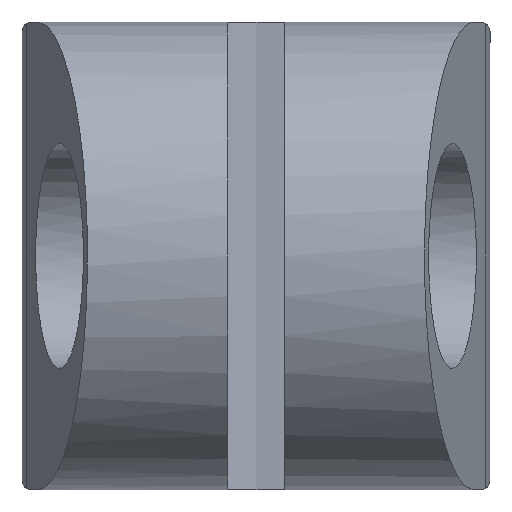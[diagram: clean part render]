
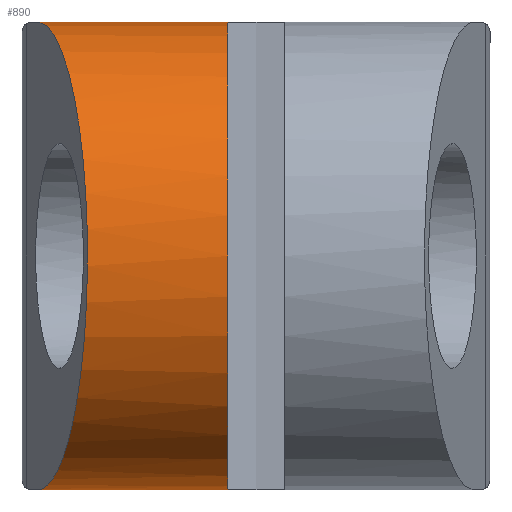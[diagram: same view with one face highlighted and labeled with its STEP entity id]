
A CAD part, left-side view. The second image highlights one B-rep face of the part: STEP entity #890.
In plain terms, the highlighted cylindrical face has radius 12.5 mm (diameter 25 mm), a partial arc.
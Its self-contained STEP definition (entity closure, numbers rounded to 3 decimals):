
#18 = ORIENTED_EDGE ( 'NONE', *, *, #883, .T. ) ;
#193 = AXIS2_PLACEMENT_3D ( 'NONE', #852, #3138, #1375 ) ;
#251 = VERTEX_POINT ( 'NONE', #2860 ) ;
#264 = DIRECTION ( 'NONE',  ( 0., -1., 0. ) ) ;
#414 = EDGE_CURVE ( 'NONE', #1079, #1747, #729, .T. ) ;
#654 = CARTESIAN_POINT ( 'NONE',  ( 714.8, 415.15, -496.39 ) ) ;
#666 = CARTESIAN_POINT ( 'NONE',  ( 714.8, 414.457, -483.89 ) ) ;
#729 =( BOUNDED_CURVE ( )  B_SPLINE_CURVE ( 3, ( #666, #1479, #3193, #3479 ),
 .UNSPECIFIED., .F., .T. ) 
 B_SPLINE_CURVE_WITH_KNOTS ( ( 4, 4 ),
 ( 1.571, 4.712 ),
 .UNSPECIFIED. ) 
 CURVE ( )  GEOMETRIC_REPRESENTATION_ITEM ( )  RATIONAL_B_SPLINE_CURVE ( ( 1., 0.333, 0.333, 1. ) ) 
 REPRESENTATION_ITEM ( '' )  );
#832 = CIRCLE ( 'NONE', #193, 12.5 ) ;
#852 = CARTESIAN_POINT ( 'NONE',  ( 714.8, 404.3, -496.39 ) ) ;
#883 = EDGE_CURVE ( 'NONE', #1169, #1079, #2527, .T. ) ;
#890 = ADVANCED_FACE ( 'NONE', ( #991 ), #3111, .T. ) ;
#991 = FACE_OUTER_BOUND ( 'NONE', #1320, .T. ) ;
#1079 = VERTEX_POINT ( 'NONE', #1374 ) ;
#1149 = CARTESIAN_POINT ( 'NONE',  ( 714.8, 415.15, -508.89 ) ) ;
#1169 = VERTEX_POINT ( 'NONE', #2749 ) ;
#1320 = EDGE_LOOP ( 'NONE', ( #1392, #18, #3087, #2804 ) ) ;
#1374 = CARTESIAN_POINT ( 'NONE',  ( 714.8, 414.457, -483.89 ) ) ;
#1375 = DIRECTION ( 'NONE',  ( 0., 0., 1. ) ) ;
#1392 = ORIENTED_EDGE ( 'NONE', *, *, #2036, .T. ) ;
#1479 = CARTESIAN_POINT ( 'NONE',  ( 689.8, 409.143, -483.89 ) ) ;
#1661 = VECTOR ( 'NONE', #264, 1000. ) ;
#1747 = VERTEX_POINT ( 'NONE', #2876 ) ;
#2036 = EDGE_CURVE ( 'NONE', #251, #1169, #832, .T. ) ;
#2303 = VECTOR ( 'NONE', #3485, 1000. ) ;
#2413 = LINE ( 'NONE', #1149, #1661 ) ;
#2527 = LINE ( 'NONE', #2921, #2303 ) ;
#2619 = DIRECTION ( 'NONE',  ( 0., 1., 0. ) ) ;
#2668 = DIRECTION ( 'NONE',  ( 0., 0., 1. ) ) ;
#2749 = CARTESIAN_POINT ( 'NONE',  ( 714.8, 404.3, -483.89 ) ) ;
#2804 = ORIENTED_EDGE ( 'NONE', *, *, #3518, .T. ) ;
#2860 = CARTESIAN_POINT ( 'NONE',  ( 714.8, 404.3, -508.89 ) ) ;
#2876 = CARTESIAN_POINT ( 'NONE',  ( 714.8, 414.457, -508.89 ) ) ;
#2921 = CARTESIAN_POINT ( 'NONE',  ( 714.8, 415.15, -483.89 ) ) ;
#3087 = ORIENTED_EDGE ( 'NONE', *, *, #414, .T. ) ;
#3111 = CYLINDRICAL_SURFACE ( 'NONE', #3375, 12.5 ) ;
#3138 = DIRECTION ( 'NONE',  ( 0., 1., 0. ) ) ;
#3193 = CARTESIAN_POINT ( 'NONE',  ( 689.8, 409.143, -508.89 ) ) ;
#3375 = AXIS2_PLACEMENT_3D ( 'NONE', #654, #2619, #2668 ) ;
#3479 = CARTESIAN_POINT ( 'NONE',  ( 714.8, 414.457, -508.89 ) ) ;
#3485 = DIRECTION ( 'NONE',  ( 0., 1., 0. ) ) ;
#3518 = EDGE_CURVE ( 'NONE', #1747, #251, #2413, .T. ) ;
